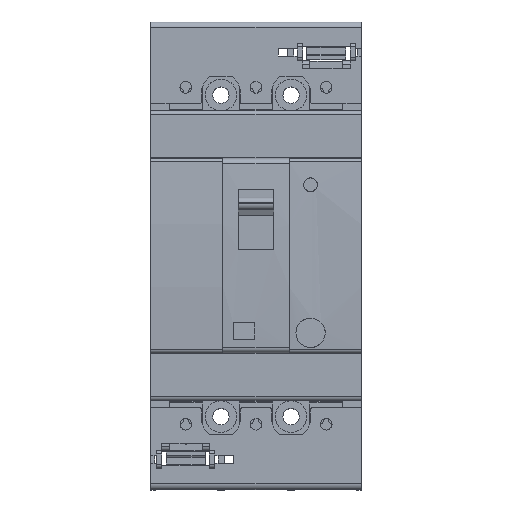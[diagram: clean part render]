
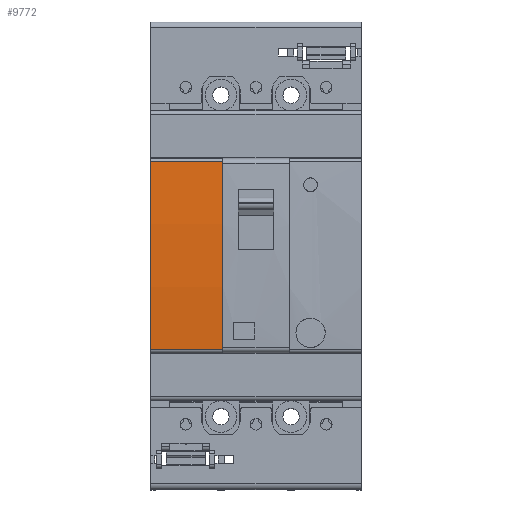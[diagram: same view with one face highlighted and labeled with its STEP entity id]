
A CAD part, top view. The second image highlights one B-rep face of the part: STEP entity #9772.
In plain terms, the highlighted cylindrical face has radius 350 mm (diameter 700 mm), a partial arc.
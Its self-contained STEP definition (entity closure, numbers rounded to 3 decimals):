
#15 = AXIS2_PLACEMENT_3D ( 'NONE', #4790, #3632, #2633 ) ;
#22 = ORIENTED_EDGE ( 'NONE', *, *, #377, .T. ) ;
#179 = CARTESIAN_POINT ( 'NONE',  ( 27., -24.069, 71.158 ) ) ;
#274 = DIRECTION ( 'NONE',  ( 1., 0., 0. ) ) ;
#374 = CARTESIAN_POINT ( 'NONE',  ( -8.5, 24.068, 71.185 ) ) ;
#377 = EDGE_CURVE ( 'NONE', #8786, #2980, #1867, .T. ) ;
#538 = ORIENTED_EDGE ( 'NONE', *, *, #8483, .F. ) ;
#762 = DIRECTION ( 'NONE',  ( 0., 0., 1. ) ) ;
#1324 = LINE ( 'NONE', #179, #7254 ) ;
#1361 = EDGE_CURVE ( 'NONE', #2980, #7895, #9934, .T. ) ;
#1426 = CARTESIAN_POINT ( 'NONE',  ( -27., 0.2, -278. ) ) ;
#1666 = VECTOR ( 'NONE', #9692, 1000. ) ;
#1867 = LINE ( 'NONE', #10858, #1666 ) ;
#1905 = ORIENTED_EDGE ( 'NONE', *, *, #1361, .T. ) ;
#1908 = DIRECTION ( 'NONE',  ( -1., 0., 0. ) ) ;
#2167 = AXIS2_PLACEMENT_3D ( 'NONE', #1426, #274, #10429 ) ;
#2175 = CARTESIAN_POINT ( 'NONE',  ( -27., -24.069, 71.158 ) ) ;
#2633 = DIRECTION ( 'NONE',  ( 0., 0., -1. ) ) ;
#2980 = VERTEX_POINT ( 'NONE', #7945 ) ;
#3071 = CARTESIAN_POINT ( 'NONE',  ( 27., 0.2, -278. ) ) ;
#3632 = DIRECTION ( 'NONE',  ( -1., 0., 0. ) ) ;
#4790 = CARTESIAN_POINT ( 'NONE',  ( -8.5, 0.2, -278. ) ) ;
#5483 = CARTESIAN_POINT ( 'NONE',  ( -8.5, -24.069, 71.158 ) ) ;
#6611 = AXIS2_PLACEMENT_3D ( 'NONE', #3071, #1908, #762 ) ;
#7193 = FACE_OUTER_BOUND ( 'NONE', #8528, .T. ) ;
#7254 = VECTOR ( 'NONE', #10319, 1000. ) ;
#7895 = VERTEX_POINT ( 'NONE', #2175 ) ;
#7945 = CARTESIAN_POINT ( 'NONE',  ( -27., 24.068, 71.185 ) ) ;
#8212 = VERTEX_POINT ( 'NONE', #5483 ) ;
#8483 = EDGE_CURVE ( 'NONE', #8212, #7895, #1324, .T. ) ;
#8528 = EDGE_LOOP ( 'NONE', ( #10817, #22, #1905, #538 ) ) ;
#8650 = CYLINDRICAL_SURFACE ( 'NONE', #6611, 350. ) ;
#8786 = VERTEX_POINT ( 'NONE', #374 ) ;
#9692 = DIRECTION ( 'NONE',  ( -1., 0., 0. ) ) ;
#9772 = ADVANCED_FACE ( 'NONE', ( #7193 ), #8650, .T. ) ;
#9934 = CIRCLE ( 'NONE', #2167, 350. ) ;
#10313 = CIRCLE ( 'NONE', #15, 350. ) ;
#10319 = DIRECTION ( 'NONE',  ( -1., 0., 0. ) ) ;
#10429 = DIRECTION ( 'NONE',  ( 0., 0., -1. ) ) ;
#10817 = ORIENTED_EDGE ( 'NONE', *, *, #11160, .T. ) ;
#10858 = CARTESIAN_POINT ( 'NONE',  ( 27., 24.068, 71.185 ) ) ;
#11160 = EDGE_CURVE ( 'NONE', #8212, #8786, #10313, .T. ) ;
